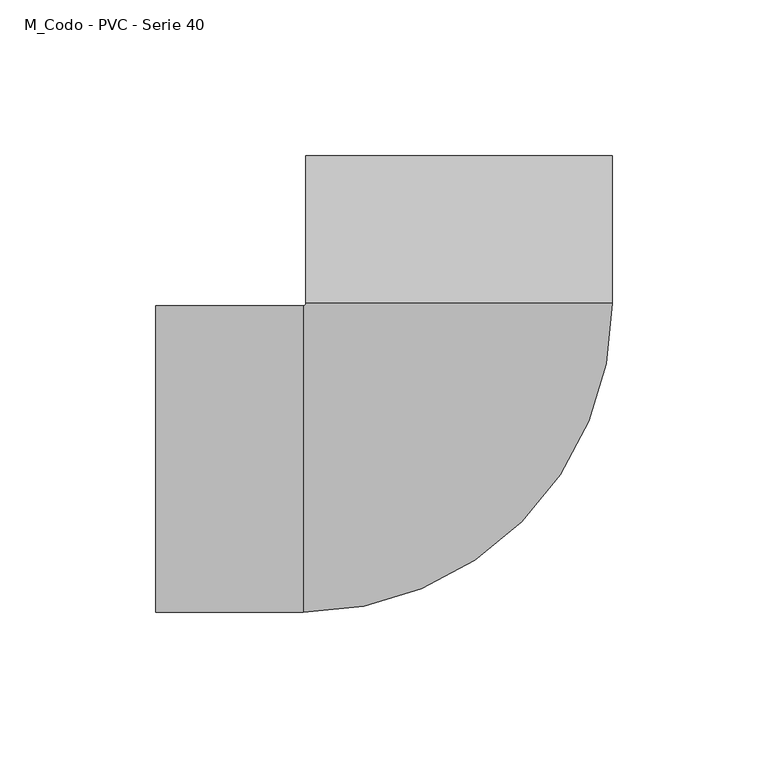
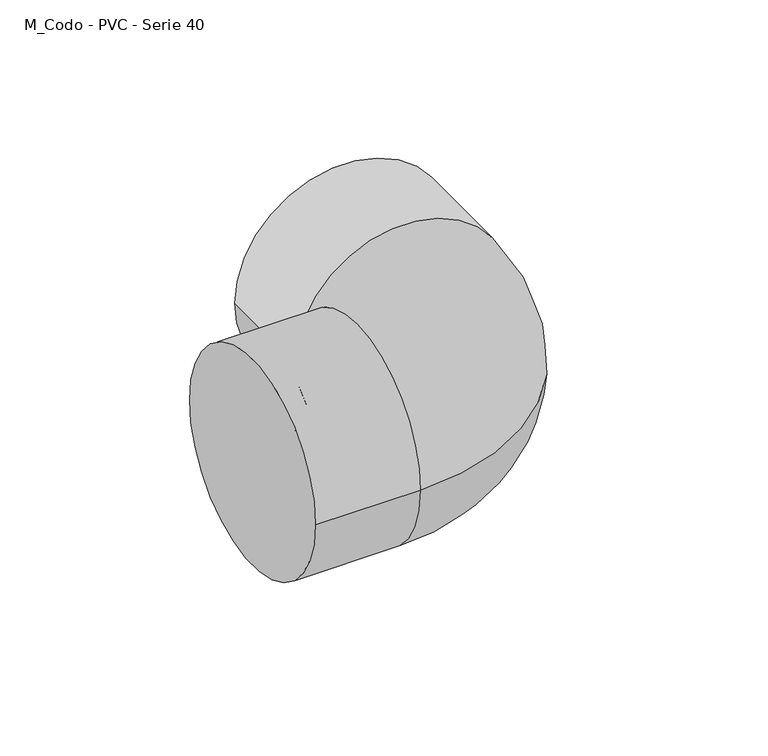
"""IFC4 building model written with IfcOpenShell, lengths in millimetres: pipe fitting geometry, M_Codo - PVC - Serie 40 : Estándar."""

import ifcopenshell
import ifcopenshell.guid

model = None  # the IFC model being written
_history = None  # IfcOwnerHistory: only IFC2X3 demands one
_inside = {}  # id of a spatial element -> (the spatial element, [elements in it])
_under = {}  # id of a project, library or spatial element -> (it, [spatial elements below it])
_declared = {}  # id of a project -> (the project, [libraries it declares])
_typed = {}  # id of a type object -> (the type object, [elements of that type])
_made_of = {}  # id of a material, layer set ... -> (it, [elements and type objects made of it])


def new_model(schema):
    """Start an empty IFC model of exactly this schema.

    Asked for "IFC4X3", IfcOpenShell would pick the latest addendum, in which some entities
    have other attributes; the version numbers below select the first issue.
    IFC2X3 requires an IfcOwnerHistory on every rooted entity: one is made here for all.
    """
    global model, _history
    if schema == "IFC4X3":
        model = ifcopenshell.file(schema_version=(4, 3, 0, 0))
    else:
        model = ifcopenshell.file(schema=schema)
    _inside.clear()
    _under.clear()
    _declared.clear()
    _typed.clear()
    _made_of.clear()
    _history = None
    if model.schema == "IFC2X3":
        org = make("IfcOrganization", Name="unknown")
        user = make(
            "IfcPersonAndOrganization",
            ThePerson=make("IfcPerson", FamilyName="unknown"),
            TheOrganization=org,
        )
        app = make(
            "IfcApplication",
            ApplicationDeveloper=org,
            Version="unknown",
            ApplicationFullName="unknown",
            ApplicationIdentifier="unknown",
        )
        _history = make(
            "IfcOwnerHistory",
            OwningUser=user,
            OwningApplication=app,
            ChangeAction="ADDED",
            CreationDate=0,
        )
    return model


def make(cls, **values):
    """One entity of the class cls with the attributes given. An attribute that is None is left unset."""
    return model.create_entity(
        cls, **{name: value for name, value in values.items() if value is not None}
    )


def rooted(cls, **values):
    """An entity with a GlobalId (a new one), such as an element, a storey or a relation."""
    return make(cls, GlobalId=ifcopenshell.guid.new(), OwnerHistory=_history, **values)


def si_unit(unit_type, name, prefix=None):
    """IfcSIUnit, for example si_unit("LENGTHUNIT", "METRE", prefix="MILLI")."""
    return make("IfcSIUnit", UnitType=unit_type, Prefix=prefix, Name=name)


def assignment(units):
    """IfcUnitAssignment: the units of a project."""
    return None if units is None else make("IfcUnitAssignment", Units=units)


def point(xyz):
    """IfcCartesianPoint."""
    return None if xyz is None else make("IfcCartesianPoint", Coordinates=xyz)


def direction(xyz):
    """IfcDirection."""
    return None if xyz is None else make("IfcDirection", DirectionRatios=xyz)


def frame(location, z_axis=None, x_axis=None):
    """IfcAxis2Placement3D, a coordinate frame: its origin and axes. An axis left out is left unset."""
    return make(
        "IfcAxis2Placement3D",
        Location=point(location),
        Axis=direction(z_axis),
        RefDirection=direction(x_axis),
    )


def origin():
    """The frame at (0, 0, 0) with its axes left unset."""
    return frame((0.0, 0.0, 0.0))


def place(relative_to, where):
    """IfcLocalPlacement: puts the frame where relative to a parent placement (None: the world)."""
    return make(
        "IfcLocalPlacement", PlacementRelTo=relative_to, RelativePlacement=where
    )


def context(
    kind, dimensions, precision=None, world=None, true_north=None, identifier=None
):
    """IfcGeometricRepresentationContext, for example the 3D "Model" context."""
    return make(
        "IfcGeometricRepresentationContext",
        ContextIdentifier=identifier,
        ContextType=kind,
        CoordinateSpaceDimension=dimensions,
        Precision=precision,
        WorldCoordinateSystem=world,
        TrueNorth=true_north,
    )


def project(units=None, contexts=None):
    """IfcProject with its units and contexts."""
    return rooted(
        "IfcProject",
        Name="project",
        RepresentationContexts=contexts,
        UnitsInContext=assignment(units),
    )


def spatial(cls, under=None, at=None, **own):
    """A site, building, storey or space (cls), placed at a placement, below another one or the project."""
    s = rooted(cls, ObjectPlacement=at, **own)
    if under is not None:
        _under.setdefault(under.id(), (under, []))[1].append(s)
    return s


def circle_curve(where, radius):
    """IfcCircle in the frame where."""
    return make("IfcCircle", Position=where, Radius=radius)


def ellipse_curve(where, semi_axis1, semi_axis2):
    """IfcEllipse in the frame where."""
    return make(
        "IfcEllipse", Position=where, SemiAxis1=semi_axis1, SemiAxis2=semi_axis2
    )


def trimmed(basis, trim1, trim2, sense, master):
    """IfcTrimmedCurve: the piece of a basis curve between two trims."""
    return make(
        "IfcTrimmedCurve",
        BasisCurve=basis,
        Trim1=trim1,
        Trim2=trim2,
        SenseAgreement=sense,
        MasterRepresentation=master,
    )


def shape(context_of_items, identifier, shape_type, items):
    """IfcShapeRepresentation: the items that make up one representation, for example the "Body"."""
    return make(
        "IfcShapeRepresentation",
        ContextOfItems=context_of_items,
        RepresentationIdentifier=identifier,
        RepresentationType=shape_type,
        Items=items,
    )


def source(mapping_origin, context_of_items, identifier, shape_type, items):
    """IfcRepresentationMap: a shape defined once, which mapped items show again and again."""
    return make(
        "IfcRepresentationMap",
        MappingOrigin=mapping_origin,
        MappedRepresentation=shape(context_of_items, identifier, shape_type, items),
    )


def transform(
    local_origin,
    x_axis=None,
    y_axis=None,
    z_axis=None,
    scale=None,
    scale2=None,
    scale3=None,
    uniform=True,
):
    """IfcCartesianTransformationOperator3D, or its non-uniform kind. x_axis, y_axis, z_axis: its Axis1, 2, 3."""
    if uniform:
        return make(
            "IfcCartesianTransformationOperator3D",
            Axis1=direction(x_axis),
            Axis2=direction(y_axis),
            LocalOrigin=point(local_origin),
            Scale=scale,
            Axis3=direction(z_axis),
        )
    return make(
        "IfcCartesianTransformationOperator3DnonUniform",
        Axis1=direction(x_axis),
        Axis2=direction(y_axis),
        LocalOrigin=point(local_origin),
        Scale=scale,
        Axis3=direction(z_axis),
        Scale2=scale2,
        Scale3=scale3,
    )


def mapped(mapping_source, mapping_target):
    """IfcMappedItem: shows the shape of a source again, moved by a transform."""
    return make(
        "IfcMappedItem", MappingSource=mapping_source, MappingTarget=mapping_target
    )


def made_of(thing, what):
    """Note that an element or type object is made of a material, layer set ...; save() writes the relation."""
    if what is not None:
        _made_of.setdefault(what.id(), (what, []))[1].append(thing)
    return thing


def element(
    cls,
    number,
    at=None,
    inside=None,
    cuts=None,
    type_object=None,
    material=None,
    context=None,
    identifier="Body",
    shape_type=None,
    held_by="IfcProductDefinitionShape",
    body=None,
    shapes=None,
    **own,
):
    """One element of the class cls, such as IfcWall. Its Tag is "e" and its number.

    at: its placement. inside: the storey or other place that contains it. cuts: it is an
    opening in that element (IfcRelVoidsElement). A single representation is given by context,
    identifier, shape_type and body (its items); several are given by shapes. held_by: the class
    of the entity that holds the representations. save() writes the other relations.
    """
    e = rooted(cls, Tag="e%d" % number, ObjectPlacement=at, **own)
    if body is not None:
        shapes = [shape(context, identifier, shape_type, body)]
    if shapes is not None:
        e.Representation = make(held_by, Representations=shapes)
    if inside is not None:
        _inside.setdefault(inside.id(), (inside, []))[1].append(e)
    if cuts is not None:
        rooted(
            "IfcRelVoidsElement", RelatingBuildingElement=cuts, RelatedOpeningElement=e
        )
    if type_object is not None:
        _typed.setdefault(type_object.id(), (type_object, []))[1].append(e)
    return made_of(e, material)


def aggregate(whole, parts):
    """IfcRelAggregates: a whole, such as a stair, and the parts it consists of."""
    return rooted("IfcRelAggregates", RelatingObject=whole, RelatedObjects=parts)


def save(model, path):
    """Write the relations noted so far, then the file.

    IfcRelAggregates (storeys below a building ...), IfcRelContainedInSpatialStructure (elements
    in a storey), IfcRelDefinesByType, IfcRelAssociatesMaterial and IfcRelDeclares: one each for
    every whole, place, type object, material and project.
    """
    for whole, parts in _under.values():
        aggregate(whole, parts)
    for where, things in _inside.values():
        rooted(
            "IfcRelContainedInSpatialStructure",
            RelatedElements=things,
            RelatingStructure=where,
        )
    for kind, things in _typed.values():
        rooted("IfcRelDefinesByType", RelatedObjects=things, RelatingType=kind)
    for what, things in _made_of.values():
        rooted("IfcRelAssociatesMaterial", RelatedObjects=things, RelatingMaterial=what)
    for by, libraries in _declared.values():
        rooted("IfcRelDeclares", RelatingContext=by, RelatedDefinitions=libraries)
    model.write(path)


def plane_surface(at):
    """IfcPlane: the flat surface through the origin of the frame at, square to its z axis."""
    return make("IfcPlane", Position=at)


def cylinder_surface(at, radius):
    """IfcCylindricalSurface: all points at the distance radius from the z axis of the frame at."""
    return make("IfcCylindricalSurface", Position=at, Radius=radius)


def revolved_surface(curve, axis_point, axis_direction):
    """IfcSurfaceOfRevolution: the curve turned about the line through axis_point along axis_direction."""
    return make(
        "IfcSurfaceOfRevolution",
        SweptCurve=make("IfcArbitraryOpenProfileDef", ProfileType="CURVE", Curve=curve),
        AxisPosition=make("IfcAxis1Placement", Location=point(axis_point), Axis=direction(axis_direction)),
    )


def advanced_brep(points, edges, surfaces, faces):
    """IfcAdvancedBrep: a solid bounded by faces that lie on surfaces and meet in shared edges.

    An edge is (start, end): straight between two places in points (the first is 0);
    or (start, end, curve); or (start, end, curve, False) where it runs against its curve.
    A face is (place in surfaces, loops), or (place, loops, False) where it looks against
    its surface's normal. A loop lists edges by number (the first is 1), with a minus sign
    where the edge is run from its end to its start. The first loop is the outer one.
    """
    corners = [point(p) for p in points]
    vertices = [make("IfcVertexPoint", VertexGeometry=c) for c in corners]
    made = []
    for start, end, *more in edges:
        made.append(
            make(
                "IfcEdgeCurve",
                EdgeStart=vertices[start],
                EdgeEnd=vertices[end],
                EdgeGeometry=more[0] if more else make("IfcPolyline", Points=[corners[start], corners[end]]),
                SameSense=more[1] if len(more) > 1 else True,
            )
        )
    hull = []
    for where, loops, *sense in faces:
        bounds = []
        for j, loop in enumerate(loops):
            ring = [make("IfcOrientedEdge", EdgeElement=made[abs(k) - 1], Orientation=k > 0) for k in loop]
            bounds.append(
                make(
                    "IfcFaceOuterBound" if j == 0 else "IfcFaceBound",
                    Bound=make("IfcEdgeLoop", EdgeList=ring),
                    Orientation=True,
                )
            )
        hull.append(make("IfcAdvancedFace", Bounds=bounds, FaceSurface=surfaces[where], SameSense=sense[0] if sense else True))
    return make("IfcAdvancedBrep", Outer=make("IfcClosedShell", CfsFaces=hull))


def m_codo_pvc_serie_40_6fb5ae01(model_context):
    return source(origin(), model_context, "Body", "AdvancedBrep", [
        advanced_brep(
        [(-97.2185, -49.1370938, 0.0), (-97.2185, 49.1370937, 0.0), (-49.9308437, -49.1370938, 0.0), (-49.9308437, 49.1370937, 0.0), (-49.1370937, 49.9308437, 0.0), (49.1370938, 49.9308437, 0.0), (49.1370938, 97.2185, 0.0), (-49.1370937, 97.2185, 0.0)],
        [
            (0, 1, circle_curve(frame((-97.2185, 0.0, 0.0), z_axis=(-1.0, 0.0, 0.0), x_axis=(0.0, 1.0, 0.0)), 49.1370938)),
            (1, 0, circle_curve(frame((-97.2185, 0.0, 0.0), z_axis=(-1.0, 0.0, 0.0), x_axis=(0.0, 1.0, 0.0)), 49.1370938)),
            (0, 2),
            (2, 3, circle_curve(frame((-49.9308437, 0.0, 0.0), z_axis=(-1.0, 0.0, 0.0), x_axis=(0.0, 1.0, 0.0)), 49.1370938)),
            (3, 1),
            (3, 2, circle_curve(frame((-49.9308437, 0.0, 0.0), z_axis=(-1.0, 0.0, 0.0), x_axis=(0.0, 1.0, 0.0)), 49.1370938)),
            (4, 3, circle_curve(frame((-49.9308437, 49.9308437, 0.0), z_axis=(0.0, 0.0, -1.0), x_axis=(0.0, -1.0, 0.0)), 0.79375)),
            (2, 5, circle_curve(frame((-49.9308437, 49.9308437, 0.0), z_axis=(0.0, 0.0, 1.0), x_axis=(0.0, -1.0, 0.0)), 99.0679375)),
            (5, 4, circle_curve(frame((0.0, 49.9308437, 0.0), z_axis=(0.0, -1.0, 0.0), x_axis=(-1.0, 0.0, 0.0)), 49.1370938)),
            (4, 5, circle_curve(frame((0.0, 49.9308437, 0.0), z_axis=(0.0, -1.0, 0.0), x_axis=(-1.0, 0.0, 0.0)), 49.1370938)),
            (6, 7, circle_curve(frame((0.0, 97.2185, 0.0), z_axis=(0.0, 1.0, 0.0), x_axis=(-1.0, 0.0, 0.0)), 49.1370938)),
            (7, 6, circle_curve(frame((0.0, 97.2185, 0.0), z_axis=(0.0, 1.0, 0.0), x_axis=(-1.0, 0.0, 0.0)), 49.1370938)),
            (5, 6),
            (7, 4),
        ],
        [
            plane_surface(frame((-97.2185, 0.0, 0.0), z_axis=(-1.0, 0.0, 0.0), x_axis=(0.0, 0.0, 1.0))),
            cylinder_surface(frame((-97.2185, 0.0, 0.0), z_axis=(-1.0, 0.0, 0.0), x_axis=(0.0, 1.0, 0.0)), 49.1370938),
            revolved_surface(trimmed(ellipse_curve(frame((-49.9308437, 0.0, 0.0), z_axis=(-1.0, 0.0, 0.0), x_axis=(0.0, 1.0, 0.0)), 49.1370938, 49.1370938), [point((-49.9308437, -49.1370938, 0.0))], [point((-49.9308437, 49.1370937, 0.0))], True, "CARTESIAN"), (-49.9308437, 49.9308437, 0.0), (0.0, 0.0, 1.0)),
            revolved_surface(trimmed(ellipse_curve(frame((-49.9308437, 0.0, 0.0), z_axis=(-1.0, 0.0, 0.0), x_axis=(0.0, 1.0, 0.0)), 49.1370938, 49.1370938), [point((-49.9308437, 49.1370937, 0.0))], [point((-49.9308437, -49.1370938, 0.0))], True, "CARTESIAN"), (-49.9308437, 49.9308437, 0.0), (0.0, 0.0, 1.0)),
            plane_surface(frame((0.0, 97.2185, 0.0), z_axis=(0.0, 1.0, 0.0), x_axis=(0.0, 0.0, 1.0))),
            cylinder_surface(frame((0.0, 49.9308437, 0.0), z_axis=(0.0, -1.0, 0.0), x_axis=(-1.0, 0.0, 0.0)), 49.1370938),
        ],
        [
            (0, [[1, 2]]),
            (1, [[-1, 3, 4, 5]]),
            (1, [[-2, -5, 6, -3]]),
            (2, [[7, -4, 8, 9]]),
            (3, [[-8, -6, -7, 10]]),
            (4, [[11, 12]]),
            (5, [[-9, 13, -12, 14]]),
            (5, [[-10, -14, -11, -13]]),
        ],
    ),
    ])


if __name__ == "__main__":
    model = new_model("IFC4")
    model_context = context("Model", 3, world=origin())
    ifc_project = project(units=[si_unit("LENGTHUNIT", "METRE", prefix="MILLI")], contexts=[model_context])
    site = spatial("IfcSite", under=ifc_project)
    building = spatial("IfcBuilding", under=site)
    placement = place(None, origin())
    m_codo_pvc_serie_40_shape = m_codo_pvc_serie_40_6fb5ae01(model_context)
    element("IfcPipeFitting", 1, ObjectType="M_Codo - PVC - Serie 40 : Estándar", at=placement, inside=building, context=model_context, shape_type="MappedRepresentation", body=[
        mapped(m_codo_pvc_serie_40_shape, transform((0.0, 0.0, 0.0), x_axis=(1.0, 0.0, 0.0), y_axis=(0.0, 1.0, 0.0), z_axis=(0.0, 0.0, 1.0))),
    ])
    save(model, "model.ifc")
